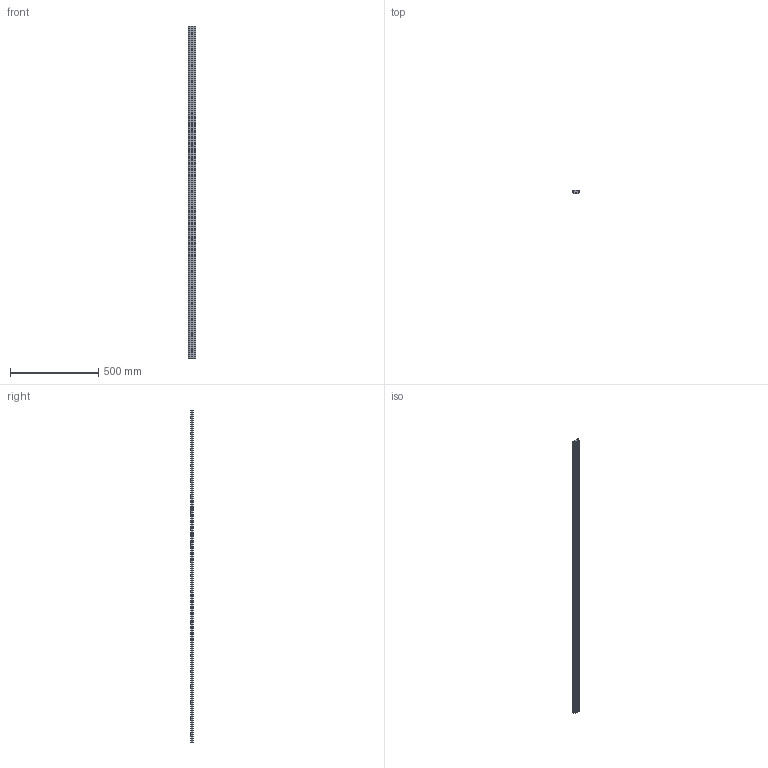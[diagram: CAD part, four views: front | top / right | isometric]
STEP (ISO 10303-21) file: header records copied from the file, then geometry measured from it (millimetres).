
FILE_DESCRIPTION(('STEP AP203'),'1');
FILE_NAME('slide_nm44l1886p3.stp','2022-07-01T04:40:02',('TraceParts'),('TraceParts S.A.'),'Spatial InterOp 3D',' ',' ');
FILE_SCHEMA(('CONFIG_CONTROL_DESIGN'));
Length unit declared in the file: millimetre
Products named in the file (1): 1
Bounding box: 44.45 x 15.91 x 1886 mm (x, y, z)
Volume: 836776.6 mm3; surface area: 235055.5 mm2
Topology: 1 solids, 1 shells, 137 faces, 342 edges, 228 vertices
Faces by surface type: cylinder 98, plane 39
Entity records: 4320 total; most frequent: DIRECTION 814, CARTESIAN_POINT 708, ORIENTED_EDGE 684, EDGE_CURVE 342, AXIS2_PLACEMENT_3D 334, VERTEX_POINT 228, EDGE_LOOP 200, CIRCLE 196
